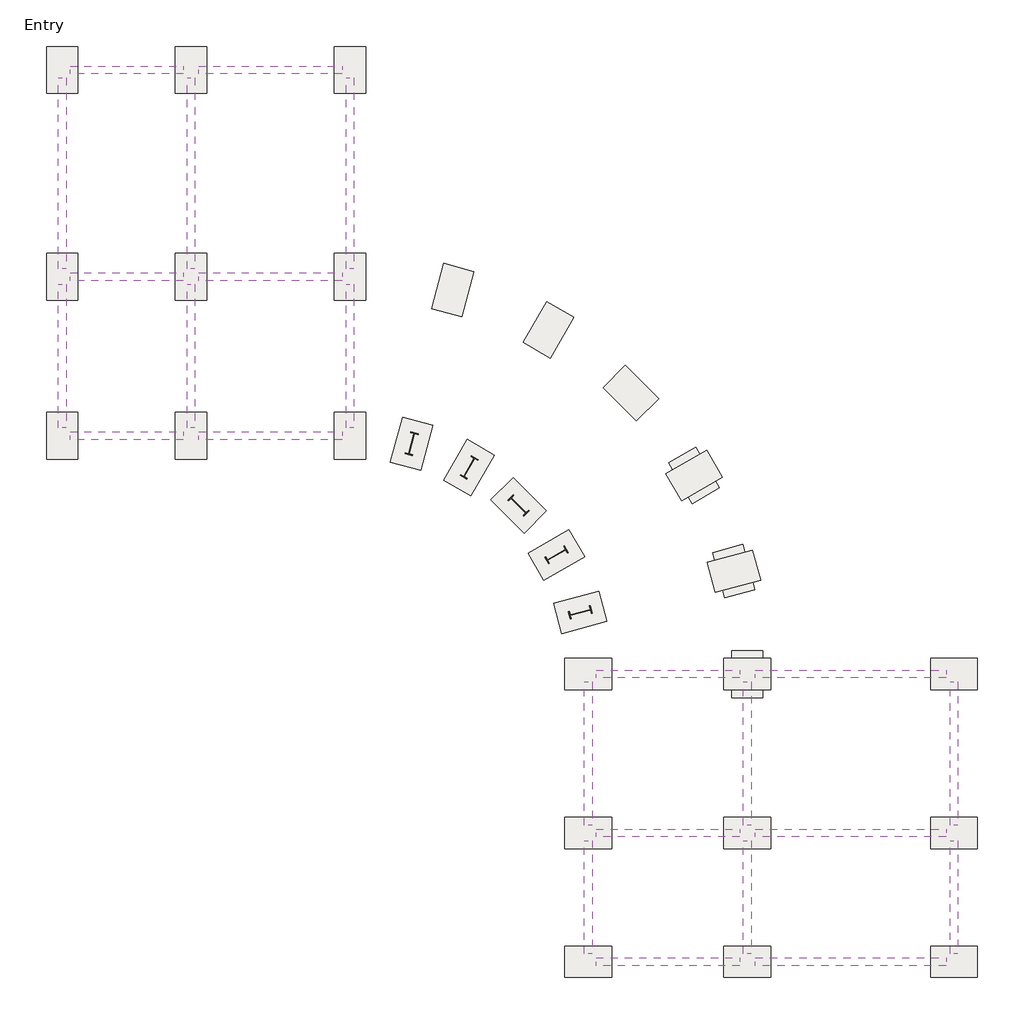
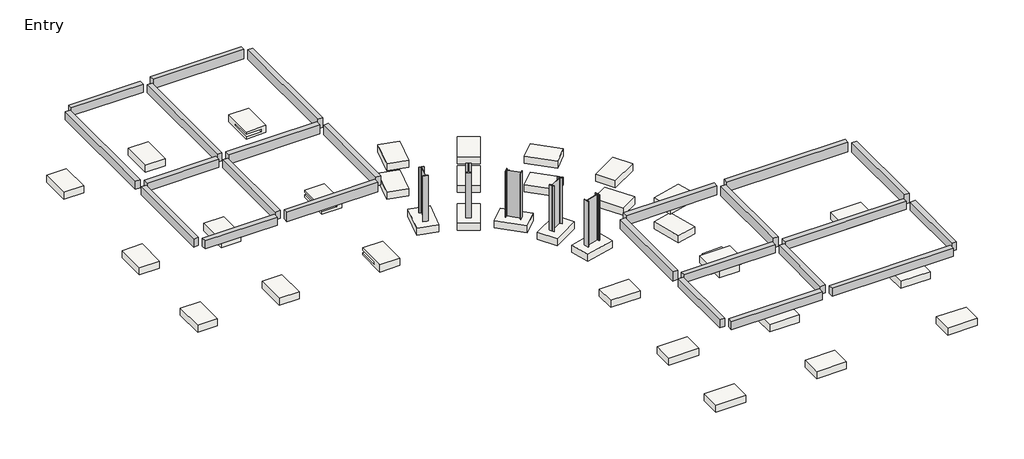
# One storey: 34 slabs, 24 beams, 5 columns.
"""IFC4 building model written with IfcOpenShell, lengths in millimetres."""

import ifcopenshell
import ifcopenshell.guid

model = None  # the IFC model being written
_history = None  # IfcOwnerHistory: only IFC2X3 demands one
_inside = {}  # id of a spatial element -> (the spatial element, [elements in it])
_under = {}  # id of a project, library or spatial element -> (it, [spatial elements below it])
_declared = {}  # id of a project -> (the project, [libraries it declares])
_typed = {}  # id of a type object -> (the type object, [elements of that type])
_made_of = {}  # id of a material, layer set ... -> (it, [elements and type objects made of it])


def new_model(schema):
    """Start an empty IFC model of exactly this schema.

    Asked for "IFC4X3", IfcOpenShell would pick the latest addendum, in which some entities
    have other attributes; the version numbers below select the first issue.
    IFC2X3 requires an IfcOwnerHistory on every rooted entity: one is made here for all.
    """
    global model, _history
    if schema == "IFC4X3":
        model = ifcopenshell.file(schema_version=(4, 3, 0, 0))
    else:
        model = ifcopenshell.file(schema=schema)
    _inside.clear()
    _under.clear()
    _declared.clear()
    _typed.clear()
    _made_of.clear()
    _history = None
    if model.schema == "IFC2X3":
        org = make("IfcOrganization", Name="unknown")
        user = make(
            "IfcPersonAndOrganization",
            ThePerson=make("IfcPerson", FamilyName="unknown"),
            TheOrganization=org,
        )
        app = make(
            "IfcApplication",
            ApplicationDeveloper=org,
            Version="unknown",
            ApplicationFullName="unknown",
            ApplicationIdentifier="unknown",
        )
        _history = make(
            "IfcOwnerHistory",
            OwningUser=user,
            OwningApplication=app,
            ChangeAction="ADDED",
            CreationDate=0,
        )
    return model


def make(cls, **values):
    """One entity of the class cls with the attributes given. An attribute that is None is left unset."""
    return model.create_entity(
        cls, **{name: value for name, value in values.items() if value is not None}
    )


def rooted(cls, **values):
    """An entity with a GlobalId (a new one), such as an element, a storey or a relation."""
    return make(cls, GlobalId=ifcopenshell.guid.new(), OwnerHistory=_history, **values)


def si_unit(unit_type, name, prefix=None):
    """IfcSIUnit, for example si_unit("LENGTHUNIT", "METRE", prefix="MILLI")."""
    return make("IfcSIUnit", UnitType=unit_type, Prefix=prefix, Name=name)


def assignment(units):
    """IfcUnitAssignment: the units of a project."""
    return None if units is None else make("IfcUnitAssignment", Units=units)


def point(xyz):
    """IfcCartesianPoint."""
    return None if xyz is None else make("IfcCartesianPoint", Coordinates=xyz)


def direction(xyz):
    """IfcDirection."""
    return None if xyz is None else make("IfcDirection", DirectionRatios=xyz)


def frame(location, z_axis=None, x_axis=None):
    """IfcAxis2Placement3D, a coordinate frame: its origin and axes. An axis left out is left unset."""
    return make(
        "IfcAxis2Placement3D",
        Location=point(location),
        Axis=direction(z_axis),
        RefDirection=direction(x_axis),
    )


def frame_2d(location, x_axis=None):
    """IfcAxis2Placement2D, a coordinate frame in the plane: its origin and x axis."""
    return make(
        "IfcAxis2Placement2D", Location=point(location), RefDirection=direction(x_axis)
    )


def origin():
    """The frame at (0, 0, 0) with its axes left unset."""
    return frame((0.0, 0.0, 0.0))


def origin_with_axes():
    """The frame at (0, 0, 0) with the z axis (0, 0, 1) and the x axis (1, 0, 0) written out."""
    return frame((0.0, 0.0, 0.0), z_axis=(0.0, 0.0, 1.0), x_axis=(1.0, 0.0, 0.0))


def place(relative_to, where):
    """IfcLocalPlacement: puts the frame where relative to a parent placement (None: the world)."""
    return make(
        "IfcLocalPlacement", PlacementRelTo=relative_to, RelativePlacement=where
    )


def context(
    kind, dimensions, precision=None, world=None, true_north=None, identifier=None
):
    """IfcGeometricRepresentationContext, for example the 3D "Model" context."""
    return make(
        "IfcGeometricRepresentationContext",
        ContextIdentifier=identifier,
        ContextType=kind,
        CoordinateSpaceDimension=dimensions,
        Precision=precision,
        WorldCoordinateSystem=world,
        TrueNorth=true_north,
    )


def project(units=None, contexts=None):
    """IfcProject with its units and contexts."""
    return rooted(
        "IfcProject",
        Name="project",
        RepresentationContexts=contexts,
        UnitsInContext=assignment(units),
    )


def spatial(cls, under=None, at=None, **own):
    """A site, building, storey or space (cls), placed at a placement, below another one or the project."""
    s = rooted(cls, ObjectPlacement=at, **own)
    if under is not None:
        _under.setdefault(under.id(), (under, []))[1].append(s)
    return s


def polyline(points):
    """IfcPolyline through the points."""
    return make("IfcPolyline", Points=[point(p) for p in points])


def circle_curve(where, radius):
    """IfcCircle in the frame where."""
    return make("IfcCircle", Position=where, Radius=radius)


def trimmed(basis, trim1, trim2, sense, master):
    """IfcTrimmedCurve: the piece of a basis curve between two trims."""
    return make(
        "IfcTrimmedCurve",
        BasisCurve=basis,
        Trim1=trim1,
        Trim2=trim2,
        SenseAgreement=sense,
        MasterRepresentation=master,
    )


def segment(curve, same_sense, transition):
    """IfcCompositeCurveSegment."""
    return make(
        "IfcCompositeCurveSegment",
        Transition=transition,
        SameSense=same_sense,
        ParentCurve=curve,
    )


def composite_curve(segments, self_intersect=None):
    """IfcCompositeCurve: segments joined end to end."""
    return make("IfcCompositeCurve", Segments=segments, SelfIntersect=self_intersect)


def outline(outer, holes=None, kind="AREA"):
    """IfcArbitraryClosedProfileDef: a profile drawn as a closed curve; with holes, ...WithVoids."""
    if holes is None:
        return make("IfcArbitraryClosedProfileDef", ProfileType=kind, OuterCurve=outer)
    return make(
        "IfcArbitraryProfileDefWithVoids",
        ProfileType=kind,
        OuterCurve=outer,
        InnerCurves=holes,
    )


def extrude(swept, where, along, depth):
    """IfcExtrudedAreaSolid: the profile swept, set in the frame where, extruded along a direction by depth."""
    return make(
        "IfcExtrudedAreaSolid",
        SweptArea=swept,
        Position=where,
        ExtrudedDirection=direction(along),
        Depth=depth,
    )


def faces_of(points, faces, orient=None, outer=None):
    """IfcFace entities. A face is a list of loops; a loop is a list of indices into points, from 0.

    orient and outer hold one flag for each loop. By default every Orientation is true, the
    first loop of a face is its IfcFaceOuterBound and the others are IfcFaceBound.
    """
    made = []
    for i, loops in enumerate(faces):
        bounds = []
        for j, loop in enumerate(loops):
            is_outer = j == 0 if outer is None else outer[i][j]
            bounds.append(
                make(
                    "IfcFaceOuterBound" if is_outer else "IfcFaceBound",
                    Bound=make("IfcPolyLoop", Polygon=[points[k] for k in loop]),
                    Orientation=True if orient is None else orient[i][j],
                )
            )
        made.append(make("IfcFace", Bounds=bounds))
    return made


def faceted_brep(points, faces, orient=None, outer=None, voids=None):
    """IfcFacetedBrep: a solid bounded by flat faces; with voids (closed shells), ...WithVoids."""
    shared = [point(p) for p in points]
    hull = make("IfcClosedShell", CfsFaces=faces_of(shared, faces, orient, outer))
    if voids is None:
        return make("IfcFacetedBrep", Outer=hull)
    return make(
        "IfcFacetedBrepWithVoids",
        Outer=hull,
        Voids=[
            make(cls, CfsFaces=faces_of(shared, fs, o, b)) for cls, fs, o, b in voids
        ],
    )


def shape(context_of_items, identifier, shape_type, items):
    """IfcShapeRepresentation: the items that make up one representation, for example the "Body"."""
    return make(
        "IfcShapeRepresentation",
        ContextOfItems=context_of_items,
        RepresentationIdentifier=identifier,
        RepresentationType=shape_type,
        Items=items,
    )


def source(mapping_origin, context_of_items, identifier, shape_type, items):
    """IfcRepresentationMap: a shape defined once, which mapped items show again and again."""
    return make(
        "IfcRepresentationMap",
        MappingOrigin=mapping_origin,
        MappedRepresentation=shape(context_of_items, identifier, shape_type, items),
    )


def transform(
    local_origin,
    x_axis=None,
    y_axis=None,
    z_axis=None,
    scale=None,
    scale2=None,
    scale3=None,
    uniform=True,
):
    """IfcCartesianTransformationOperator3D, or its non-uniform kind. x_axis, y_axis, z_axis: its Axis1, 2, 3."""
    if uniform:
        return make(
            "IfcCartesianTransformationOperator3D",
            Axis1=direction(x_axis),
            Axis2=direction(y_axis),
            LocalOrigin=point(local_origin),
            Scale=scale,
            Axis3=direction(z_axis),
        )
    return make(
        "IfcCartesianTransformationOperator3DnonUniform",
        Axis1=direction(x_axis),
        Axis2=direction(y_axis),
        LocalOrigin=point(local_origin),
        Scale=scale,
        Axis3=direction(z_axis),
        Scale2=scale2,
        Scale3=scale3,
    )


def mapped(mapping_source, mapping_target):
    """IfcMappedItem: shows the shape of a source again, moved by a transform."""
    return make(
        "IfcMappedItem", MappingSource=mapping_source, MappingTarget=mapping_target
    )


def made_of(thing, what):
    """Note that an element or type object is made of a material, layer set ...; save() writes the relation."""
    if what is not None:
        _made_of.setdefault(what.id(), (what, []))[1].append(thing)
    return thing


def element(
    cls,
    number,
    at=None,
    inside=None,
    cuts=None,
    type_object=None,
    material=None,
    context=None,
    identifier="Body",
    shape_type=None,
    held_by="IfcProductDefinitionShape",
    body=None,
    shapes=None,
    **own,
):
    """One element of the class cls, such as IfcWall. Its Tag is "e" and its number.

    at: its placement. inside: the storey or other place that contains it. cuts: it is an
    opening in that element (IfcRelVoidsElement). A single representation is given by context,
    identifier, shape_type and body (its items); several are given by shapes. held_by: the class
    of the entity that holds the representations. save() writes the other relations.
    """
    e = rooted(cls, Tag="e%d" % number, ObjectPlacement=at, **own)
    if body is not None:
        shapes = [shape(context, identifier, shape_type, body)]
    if shapes is not None:
        e.Representation = make(held_by, Representations=shapes)
    if inside is not None:
        _inside.setdefault(inside.id(), (inside, []))[1].append(e)
    if cuts is not None:
        rooted(
            "IfcRelVoidsElement", RelatingBuildingElement=cuts, RelatedOpeningElement=e
        )
    if type_object is not None:
        _typed.setdefault(type_object.id(), (type_object, []))[1].append(e)
    return made_of(e, material)


def aggregate(whole, parts):
    """IfcRelAggregates: a whole, such as a stair, and the parts it consists of."""
    return rooted("IfcRelAggregates", RelatingObject=whole, RelatedObjects=parts)


def save(model, path):
    """Write the relations noted so far, then the file.

    IfcRelAggregates (storeys below a building ...), IfcRelContainedInSpatialStructure (elements
    in a storey), IfcRelDefinesByType, IfcRelAssociatesMaterial and IfcRelDeclares: one each for
    every whole, place, type object, material and project.
    """
    for whole, parts in _under.values():
        aggregate(whole, parts)
    for where, things in _inside.values():
        rooted(
            "IfcRelContainedInSpatialStructure",
            RelatedElements=things,
            RelatingStructure=where,
        )
    for kind, things in _typed.values():
        rooted("IfcRelDefinesByType", RelatedObjects=things, RelatingType=kind)
    for what, things in _made_of.values():
        rooted("IfcRelAssociatesMaterial", RelatedObjects=things, RelatingMaterial=what)
    for by, libraries in _declared.values():
        rooted("IfcRelDeclares", RelatingContext=by, RelatedDefinitions=libraries)
    model.write(path)


def w840x251_ab389207(model_context):
    return source(origin(), model_context, "Body", "SweptSolid", [
        extrude(outline(composite_curve([segment(polyline([(146.0, 429.5), (146.0, 398.5), (31.5, 398.5)]), True, "CONTINUOUS"), segment(trimmed(circle_curve(frame_2d((31.5, 375.5)), 23.0), [point((31.5, 398.5))], [point((8.5, 375.5))], True, "CARTESIAN"), True, "CONTINUOUS"), segment(polyline([(8.5, 375.5), (8.5, -375.5)]), True, "CONTINUOUS"), segment(trimmed(circle_curve(frame_2d((31.5, -375.5)), 23.0), [point((8.5, -375.5))], [point((31.5, -398.5))], True, "CARTESIAN"), True, "CONTINUOUS"), segment(polyline([(31.5, -398.5), (146.0, -398.5), (146.0, -429.5), (-146.0, -429.5), (-146.0, -398.5), (-31.5, -398.5)]), True, "CONTINUOUS"), segment(trimmed(circle_curve(frame_2d((-31.5, -375.5)), 23.0), [point((-31.5, -398.5))], [point((-8.5, -375.5))], True, "CARTESIAN"), True, "CONTINUOUS"), segment(polyline([(-8.5, -375.5), (-8.5, 375.5)]), True, "CONTINUOUS"), segment(trimmed(circle_curve(frame_2d((-31.5, 375.5)), 23.0), [point((-8.5, 375.5))], [point((-31.5, 398.5))], True, "CARTESIAN"), True, "CONTINUOUS"), segment(polyline([(-31.5, 398.5), (-146.0, 398.5), (-146.0, 429.5), (146.0, 429.5)]), True, "CONTINUOUS")], self_intersect=False)), origin_with_axes(), (0.0, 0.0, 1.0), 2921.0),
    ])


def m_footing_rectangular_1800_x_1200_x_450mm_16ba7ea5(model_context):
    return source(origin(), model_context, "Body", "SweptSolid", [
        extrude(outline(polyline([(600.0, 900.0), (600.0, -900.0), (-600.0, -900.0), (-600.0, 900.0), (600.0, 900.0)])), frame((0.0, 0.0, -450.0), z_axis=(0.0, 0.0, 1.0), x_axis=(1.0, 0.0, 0.0)), (0.0, 0.0, 1.0), 450.0),
    ])


def m_footing_rectangular_1800_x_1200_x_450mm_a17f5610(model_context):
    return source(origin(), model_context, "Body", "SweptSolid", [
        extrude(outline(polyline([(600.0, -900.0), (-600.0, -900.0), (-600.0, 900.0), (600.0, 900.0), (600.0, -900.0)])), frame((0.0, 0.0, -450.0), z_axis=(0.0, 0.0, 1.0), x_axis=(1.0, 0.0, 0.0)), (0.0, 0.0, 1.0), 450.0),
    ])


model = new_model("IFC4")

# Units and contexts
model_context = context("Model", 3, world=origin())
ifc_project = project(units=[si_unit("LENGTHUNIT", "METRE", prefix="MILLI")], contexts=[model_context])

# Site, building, storey
site = spatial("IfcSite", under=ifc_project)
building = spatial("IfcBuilding", under=site)
storey = spatial("IfcBuildingStorey", under=building, Name="Entry", Elevation=0.0)

# Beams
placement = place(None, origin())
element("IfcBeam", 1, ObjectType="M_Concrete-Rectangular Beam : 300 x 600mm", at=placement, inside=storey, context=model_context, shape_type="SweptSolid", body=[
    extrude(outline(polyline([(-16304.9035319, 4112.1636035), (-16304.9035319, 4412.1636035), (-10808.9035319, 4412.1636035), (-10808.9035319, 4112.1636035), (-16304.9035319, 4112.1636035)])), frame((0.0, 0.0, 2448.0), z_axis=(0.0, 0.0, 1.0), x_axis=(1.0, 0.0, 0.0)), (0.0, 0.0, 1.0), 600.0),
])
element("IfcBeam", 2, ObjectType="M_Concrete-Rectangular Beam : 300 x 600mm", at=placement, inside=storey, context=model_context, shape_type="SweptSolid", body=[
    extrude(outline(polyline([(-21244.300634, 4112.1636035), (-21244.300634, 4412.1636035), (-16904.9035319, 4412.1636035), (-16904.9035319, 4112.1636035), (-21244.300634, 4112.1636035)])), frame((0.0, 0.0, 2448.0), z_axis=(0.0, 0.0, 1.0), x_axis=(1.0, 0.0, 0.0)), (0.0, 0.0, 1.0), 510.0),
])
element("IfcBeam", 3, ObjectType="M_Concrete-Rectangular Beam : 300 x 600mm", at=placement, inside=storey, context=model_context, shape_type="SweptSolid", body=[
    extrude(outline(polyline([(-16304.9035319, -3812.8363965), (-16304.9035319, -3512.8363965), (-10808.9035319, -3512.8363965), (-10808.9035319, -3812.8363965), (-16304.9035319, -3812.8363965)])), frame((0.0, 0.0, 2448.0), z_axis=(0.0, 0.0, 1.0), x_axis=(1.0, 0.0, 0.0)), (0.0, 0.0, 1.0), 600.0),
])
element("IfcBeam", 4, ObjectType="M_Concrete-Rectangular Beam : 300 x 600mm", at=placement, inside=storey, context=model_context, shape_type="SweptSolid", body=[
    extrude(outline(polyline([(-21244.300634, -3812.8363965), (-21244.300634, -3512.8363965), (-16904.9035319, -3512.8363965), (-16904.9035319, -3812.8363965), (-21244.300634, -3812.8363965)])), frame((0.0, 0.0, 2448.0), z_axis=(0.0, 0.0, 1.0), x_axis=(1.0, 0.0, 0.0)), (0.0, 0.0, 1.0), 510.0),
])
element("IfcBeam", 5, ObjectType="M_Concrete-Rectangular Beam : 300 x 600mm", at=placement, inside=storey, context=model_context, shape_type="SweptSolid", body=[
    extrude(outline(polyline([(-16304.9035319, -9908.8363965), (-16304.9035319, -9608.8363965), (-10808.9035319, -9608.8363965), (-10808.9035319, -9908.8363965), (-16304.9035319, -9908.8363965)])), frame((0.0, 0.0, 2448.0), z_axis=(0.0, 0.0, 1.0), x_axis=(1.0, 0.0, 0.0)), (0.0, 0.0, 1.0), 600.0),
])
element("IfcBeam", 6, ObjectType="M_Concrete-Rectangular Beam : 300 x 600mm", at=placement, inside=storey, context=model_context, shape_type="SweptSolid", body=[
    extrude(outline(polyline([(-21244.300634, -9908.8363965), (-21244.300634, -9608.8363965), (-16904.9035319, -9608.8363965), (-16904.9035319, -9908.8363965), (-21244.300634, -9908.8363965)])), frame((0.0, 0.0, 2448.0), z_axis=(0.0, 0.0, 1.0), x_axis=(1.0, 0.0, 0.0)), (0.0, 0.0, 1.0), 510.0),
])
element("IfcBeam", 7, ObjectType="M_Concrete-Rectangular Beam : 300 x 600mm", at=placement, inside=storey, context=model_context, shape_type="SweptSolid", body=[
    extrude(outline(polyline([(-21394.300634, -3362.8363965), (-21694.300634, -3362.8363965), (-21694.300634, 3962.1636035), (-21394.300634, 3962.1636035), (-21394.300634, -3362.8363965)])), frame((0.0, 0.0, 2448.0), z_axis=(0.0, 0.0, 1.0), x_axis=(1.0, 0.0, 0.0)), (0.0, 0.0, 1.0), 510.0),
])
element("IfcBeam", 8, ObjectType="M_Concrete-Rectangular Beam : 300 x 600mm", at=placement, inside=storey, context=model_context, shape_type="SweptSolid", body=[
    extrude(outline(polyline([(-21394.300634, -9458.8363965), (-21694.300634, -9458.8363965), (-21694.300634, -3962.8363965), (-21394.300634, -3962.8363965), (-21394.300634, -9458.8363965)])), frame((0.0, 0.0, 2448.0), z_axis=(0.0, 0.0, 1.0), x_axis=(1.0, 0.0, 0.0)), (0.0, 0.0, 1.0), 510.0),
])
element("IfcBeam", 9, ObjectType="M_Concrete-Rectangular Beam : 300 x 600mm", at=placement, inside=storey, context=model_context, shape_type="SweptSolid", body=[
    extrude(outline(polyline([(-16454.9035319, -9458.8363965), (-16754.9035319, -9458.8363965), (-16754.9035319, -3962.8363965), (-16454.9035319, -3962.8363965), (-16454.9035319, -9458.8363965)])), frame((0.0, 0.0, 2448.0), z_axis=(0.0, 0.0, 1.0), x_axis=(1.0, 0.0, 0.0)), (0.0, 0.0, 1.0), 510.0),
])
element("IfcBeam", 10, ObjectType="M_Concrete-Rectangular Beam : 300 x 600mm", at=placement, inside=storey, context=model_context, shape_type="SweptSolid", body=[
    extrude(outline(polyline([(-16454.9035319, -3362.8363965), (-16754.9035319, -3362.8363965), (-16754.9035319, 3962.1636035), (-16454.9035319, 3962.1636035), (-16454.9035319, -3362.8363965)])), frame((0.0, 0.0, 2448.0), z_axis=(0.0, 0.0, 1.0), x_axis=(1.0, 0.0, 0.0)), (0.0, 0.0, 1.0), 510.0),
])
element("IfcBeam", 11, ObjectType="M_Concrete-Rectangular Beam : 300 x 600mm", at=placement, inside=storey, context=model_context, shape_type="SweptSolid", body=[
    extrude(outline(polyline([(-10358.9035319, -9458.8363965), (-10658.9035319, -9458.8363965), (-10658.9035319, -3962.8363965), (-10358.9035319, -3962.8363965), (-10358.9035319, -9458.8363965)])), frame((0.0, 0.0, 2448.0), z_axis=(0.0, 0.0, 1.0), x_axis=(1.0, 0.0, 0.0)), (0.0, 0.0, 1.0), 600.0),
])
element("IfcBeam", 12, ObjectType="M_Concrete-Rectangular Beam : 300 x 600mm", at=placement, inside=storey, context=model_context, shape_type="SweptSolid", body=[
    extrude(outline(polyline([(-10358.9035319, -3362.8363965), (-10658.9035319, -3362.8363965), (-10658.9035319, 3962.1636035), (-10358.9035319, 3962.1636035), (-10358.9035319, -3362.8363965)])), frame((0.0, 0.0, 2448.0), z_axis=(0.0, 0.0, 1.0), x_axis=(1.0, 0.0, 0.0)), (0.0, 0.0, 1.0), 600.0),
])
element("IfcBeam", 13, ObjectType="M_Concrete-Rectangular Beam : 300 x 600mm", at=placement, inside=storey, context=model_context, shape_type="SweptSolid", body=[
    extrude(outline(polyline([(12806.0964681, -24698.8363965), (12506.0964681, -24698.8363965), (12506.0964681, -19202.8363965), (12806.0964681, -19202.8363965), (12806.0964681, -24698.8363965)])), frame((0.0, 0.0, 2448.0), z_axis=(0.0, 0.0, 1.0), x_axis=(1.0, 0.0, 0.0)), (0.0, 0.0, 1.0), 600.0),
])
element("IfcBeam", 14, ObjectType="M_Concrete-Rectangular Beam : 300 x 600mm", at=placement, inside=storey, context=model_context, shape_type="SweptSolid", body=[
    extrude(outline(polyline([(12806.0964681, -29638.2334986), (12506.0964681, -29638.2334986), (12506.0964681, -25298.8363965), (12806.0964681, -25298.8363965), (12806.0964681, -29638.2334986)])), frame((0.0, 0.0, 2448.0), z_axis=(0.0, 0.0, 1.0), x_axis=(1.0, 0.0, 0.0)), (0.0, 0.0, 1.0), 510.0),
])
element("IfcBeam", 15, ObjectType="M_Concrete-Rectangular Beam : 300 x 600mm", at=placement, inside=storey, context=model_context, shape_type="SweptSolid", body=[
    extrude(outline(polyline([(4881.0964681, -24698.8363965), (4581.0964681, -24698.8363965), (4581.0964681, -19202.8363965), (4881.0964681, -19202.8363965), (4881.0964681, -24698.8363965)])), frame((0.0, 0.0, 2448.0), z_axis=(0.0, 0.0, 1.0), x_axis=(1.0, 0.0, 0.0)), (0.0, 0.0, 1.0), 600.0),
])
element("IfcBeam", 16, ObjectType="M_Concrete-Rectangular Beam : 300 x 600mm", at=placement, inside=storey, context=model_context, shape_type="SweptSolid", body=[
    extrude(outline(polyline([(4881.0964681, -29638.2334986), (4581.0964681, -29638.2334986), (4581.0964681, -25298.8363965), (4881.0964681, -25298.8363965), (4881.0964681, -29638.2334986)])), frame((0.0, 0.0, 2448.0), z_axis=(0.0, 0.0, 1.0), x_axis=(1.0, 0.0, 0.0)), (0.0, 0.0, 1.0), 510.0),
])
element("IfcBeam", 17, ObjectType="M_Concrete-Rectangular Beam : 300 x 600mm", at=placement, inside=storey, context=model_context, shape_type="SweptSolid", body=[
    extrude(outline(polyline([(-1214.9035319, -24698.8363965), (-1514.9035319, -24698.8363965), (-1514.9035319, -19202.8363965), (-1214.9035319, -19202.8363965), (-1214.9035319, -24698.8363965)])), frame((0.0, 0.0, 2448.0), z_axis=(0.0, 0.0, 1.0), x_axis=(1.0, 0.0, 0.0)), (0.0, 0.0, 1.0), 600.0),
])
element("IfcBeam", 18, ObjectType="M_Concrete-Rectangular Beam : 300 x 600mm", at=placement, inside=storey, context=model_context, shape_type="SweptSolid", body=[
    extrude(outline(polyline([(-1214.9035319, -29638.2334986), (-1514.9035319, -29638.2334986), (-1514.9035319, -25298.8363965), (-1214.9035319, -25298.8363965), (-1214.9035319, -29638.2334986)])), frame((0.0, 0.0, 2448.0), z_axis=(0.0, 0.0, 1.0), x_axis=(1.0, 0.0, 0.0)), (0.0, 0.0, 1.0), 510.0),
])
element("IfcBeam", 19, ObjectType="M_Concrete-Rectangular Beam : 300 x 600mm", at=placement, inside=storey, context=model_context, shape_type="SweptSolid", body=[
    extrude(outline(polyline([(5031.0964681, -30088.2334986), (5031.0964681, -29788.2334986), (12356.0964681, -29788.2334986), (12356.0964681, -30088.2334986), (5031.0964681, -30088.2334986)])), frame((0.0, 0.0, 2448.0), z_axis=(0.0, 0.0, 1.0), x_axis=(1.0, 0.0, 0.0)), (0.0, 0.0, 1.0), 510.0),
])
element("IfcBeam", 20, ObjectType="M_Concrete-Rectangular Beam : 300 x 600mm", at=placement, inside=storey, context=model_context, shape_type="SweptSolid", body=[
    extrude(outline(polyline([(-1064.9035319, -30088.2334986), (-1064.9035319, -29788.2334986), (4431.0964681, -29788.2334986), (4431.0964681, -30088.2334986), (-1064.9035319, -30088.2334986)])), frame((0.0, 0.0, 2448.0), z_axis=(0.0, 0.0, 1.0), x_axis=(1.0, 0.0, 0.0)), (0.0, 0.0, 1.0), 510.0),
])
element("IfcBeam", 21, ObjectType="M_Concrete-Rectangular Beam : 300 x 600mm", at=placement, inside=storey, context=model_context, shape_type="SweptSolid", body=[
    extrude(outline(polyline([(-1064.9035319, -25148.8363965), (-1064.9035319, -24848.8363965), (4431.0964681, -24848.8363965), (4431.0964681, -25148.8363965), (-1064.9035319, -25148.8363965)])), frame((0.0, 0.0, 2448.0), z_axis=(0.0, 0.0, 1.0), x_axis=(1.0, 0.0, 0.0)), (0.0, 0.0, 1.0), 510.0),
])
element("IfcBeam", 22, ObjectType="M_Concrete-Rectangular Beam : 300 x 600mm", at=placement, inside=storey, context=model_context, shape_type="SweptSolid", body=[
    extrude(outline(polyline([(5031.0964681, -25148.8363965), (5031.0964681, -24848.8363965), (12356.0964681, -24848.8363965), (12356.0964681, -25148.8363965), (5031.0964681, -25148.8363965)])), frame((0.0, 0.0, 2448.0), z_axis=(0.0, 0.0, 1.0), x_axis=(1.0, 0.0, 0.0)), (0.0, 0.0, 1.0), 510.0),
])
element("IfcBeam", 23, ObjectType="M_Concrete-Rectangular Beam : 300 x 600mm", at=placement, inside=storey, context=model_context, shape_type="SweptSolid", body=[
    extrude(outline(polyline([(-1064.9035319, -19052.8363965), (-1064.9035319, -18752.8363965), (4431.0964681, -18752.8363965), (4431.0964681, -19052.8363965), (-1064.9035319, -19052.8363965)])), frame((0.0, 0.0, 2448.0), z_axis=(0.0, 0.0, 1.0), x_axis=(1.0, 0.0, 0.0)), (0.0, 0.0, 1.0), 600.0),
])
element("IfcBeam", 24, ObjectType="M_Concrete-Rectangular Beam : 300 x 600mm", at=placement, inside=storey, context=model_context, shape_type="SweptSolid", body=[
    extrude(outline(polyline([(5031.0964681, -19052.8363965), (5031.0964681, -18752.8363965), (12356.0964681, -18752.8363965), (12356.0964681, -19052.8363965), (5031.0964681, -19052.8363965)])), frame((0.0, 0.0, 2448.0), z_axis=(0.0, 0.0, 1.0), x_axis=(1.0, 0.0, 0.0)), (0.0, 0.0, 1.0), 600.0),
])

# Columns
w840x251_shape = w840x251_ab389207(model_context)
element("IfcColumn", 25, ObjectType="M_W-Wide Flange-Column : W840X251", at=placement, inside=storey, context=model_context, shape_type="MappedRepresentation", body=[
    mapped(w840x251_shape, transform((-1676.4777763, -16536.1950481, 0.0), x_axis=(-0.25881904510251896, 0.9659258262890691, 0.0), y_axis=(-0.9659258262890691, -0.25881904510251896, 0.0), z_axis=(0.0, 0.0, 1.0))),
])
element("IfcColumn", 26, ObjectType="M_W-Wide Flange-Column : W840X251", at=placement, inside=storey, context=model_context, shape_type="MappedRepresentation", body=[
    mapped(w840x251_shape, transform((-2589.9672396, -14330.8363965, 0.0), x_axis=(-0.4999999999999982, 0.8660254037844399, 0.0), y_axis=(-0.8660254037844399, -0.4999999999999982, 0.0), z_axis=(0.0, 0.0, 1.0))),
])
element("IfcColumn", 27, ObjectType="M_W-Wide Flange-Column : W840X251", at=placement, inside=storey, context=model_context, shape_type="MappedRepresentation", body=[
    mapped(w840x251_shape, transform((-4043.1191247, -12437.0519893, 0.0), x_axis=(0.7071067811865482, 0.7071067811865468, 0.0), y_axis=(-0.7071067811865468, 0.7071067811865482, 0.0), z_axis=(0.0, 0.0, 1.0))),
])
element("IfcColumn", 28, ObjectType="M_W-Wide Flange-Column : W840X251", at=placement, inside=storey, context=model_context, shape_type="MappedRepresentation", body=[
    mapped(w840x251_shape, transform((-5936.9035319, -10983.9001043, 0.0), x_axis=(0.8660254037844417, -0.49999999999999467, 0.0), y_axis=(0.49999999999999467, 0.8660254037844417, 0.0), z_axis=(0.0, 0.0, 1.0))),
])
element("IfcColumn", 29, ObjectType="M_W-Wide Flange-Column : W840X251", at=placement, inside=storey, context=model_context, shape_type="MappedRepresentation", body=[
    mapped(w840x251_shape, transform((-8142.2621834, -10070.4106409, 0.0), x_axis=(0.9659258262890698, -0.25881904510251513, 0.0), y_axis=(0.25881904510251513, 0.9659258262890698, 0.0), z_axis=(0.0, 0.0, 1.0))),
])

# Slabs
element("IfcSlab", 30, ObjectType="M_Footing-Rectangular : 1800 x 1200 x 450mm", at=placement, inside=storey, context=model_context, shape_type="Brep", body=[
    faceted_brep([(-11108.9035319, 3362.1636035, -1677.0), (-9908.9035319, 3362.1636035, -1677.0), (-9908.9035319, 5162.1636035, -1677.0), (-11108.9035319, 5162.1636035, -1677.0), (-11108.9035319, 3362.1636035, -2127.0), (-11108.9035319, 5162.1636035, -2127.0), (-9908.9035319, 5162.1636035, -2127.0), (-9908.9035319, 3362.1636035, -2127.0), (-11108.9035319, 3362.1636035, -1829.0), (-10208.9035319, 3362.1636035, -1829.0), (-10208.9035319, 3362.1636035, -1979.0), (-11108.9035319, 3362.1636035, -1979.0), (-11108.9035319, 4562.1636035, -1979.0), (-11108.9035319, 4562.1636035, -1829.0), (-10208.9035319, 4562.1636035, -1979.0), (-10208.9035319, 4562.1636035, -1829.0)], [[[0, 1, 2, 3]], [[4, 5, 6, 7]], [[1, 0, 8, 9, 10, 11, 4, 7]], [[2, 1, 7, 6]], [[3, 2, 6, 5]], [[0, 3, 5, 4, 11, 12, 13, 8]], [[14, 12, 11, 10]], [[15, 9, 8, 13]], [[15, 14, 10, 9]], [[14, 15, 13, 12]]]),
])
element("IfcSlab", 31, ObjectType="M_Footing-Rectangular : 1800 x 1200 x 450mm", at=placement, inside=storey, context=model_context, shape_type="Brep", body=[
    faceted_brep([(5331.0964681, -18002.8363965, -1829.0), (4131.0964681, -18002.8363965, -1829.0), (4131.0964681, -18302.8363965, -1829.0), (4131.0964681, -19502.8363965, -1829.0), (4131.0964681, -19802.8363965, -1829.0), (5331.0964681, -19802.8363965, -1829.0), (5331.0964681, -19502.8363965, -1829.0), (5331.0964681, -18302.8363965, -1829.0), (5331.0964681, -18002.8363965, -2279.0), (5331.0964681, -19802.8363965, -2279.0), (4131.0964681, -19802.8363965, -2279.0), (4131.0964681, -18002.8363965, -2279.0)], [[[0, 1, 2, 3, 4, 5, 6, 7]], [[8, 9, 10, 11]], [[1, 0, 8, 11]], [[4, 3, 2, 1, 11, 10]], [[5, 4, 10, 9]], [[0, 7, 6, 5, 9, 8]]]),
])
element("IfcSlab", 32, ObjectType="M_Footing-Rectangular : 1800 x 1200 x 450mm", at=placement, inside=storey, context=model_context, shape_type="SweptSolid", body=[
    extrude(outline(polyline([(-1677.0, -9908.9035319), (-1677.0, -11108.9035319), (-1829.0, -11108.9035319), (-1829.0, -10208.9035319), (-1979.0, -10208.9035319), (-1979.0, -11108.9035319), (-2127.0, -11108.9035319), (-2127.0, -9908.9035319), (-1677.0, -9908.9035319)])), frame((0.0, -4562.8363965, 0.0), z_axis=(0.0, 1.0, 0.0), x_axis=(0.0, 0.0, 1.0)), (0.0, 0.0, 1.0), 1800.0),
])
element("IfcSlab", 33, ObjectType="M_Footing-Rectangular : 1800 x 1200 x 450mm", at=placement, inside=storey, context=model_context, shape_type="Brep", body=[
    faceted_brep([(-9908.9035319, -8858.8363965, -1677.0), (-11108.9035319, -8858.8363965, -1677.0), (-11108.9035319, -10658.8363965, -1677.0), (-9908.9035319, -10658.8363965, -1677.0), (-9908.9035319, -8858.8363965, -2127.0), (-9908.9035319, -10658.8363965, -2127.0), (-11108.9035319, -10658.8363965, -2127.0), (-11108.9035319, -8858.8363965, -2127.0), (-11108.9035319, -8858.8363965, -1979.0), (-10208.9035319, -8858.8363965, -1979.0), (-10208.9035319, -8858.8363965, -1829.0), (-11108.9035319, -8858.8363965, -1829.0), (-11108.9035319, -10058.8363965, -1829.0), (-11108.9035319, -10058.8363965, -1979.0), (-10208.9035319, -10058.8363965, -1979.0), (-10208.9035319, -10058.8363965, -1829.0)], [[[0, 1, 2, 3]], [[4, 5, 6, 7]], [[1, 0, 4, 7, 8, 9, 10, 11]], [[2, 1, 11, 12, 13, 8, 7, 6]], [[3, 2, 6, 5]], [[0, 3, 5, 4]], [[13, 14, 9, 8]], [[10, 15, 12, 11]], [[14, 15, 10, 9]], [[15, 14, 13, 12]]]),
])
element("IfcSlab", 34, ObjectType="M_Footing-Rectangular : 1800 x 1200 x 450mm", at=placement, inside=storey, context=model_context, shape_type="SweptSolid", body=[
    extrude(outline(polyline([(11756.0964681, -19502.8363965), (11756.0964681, -18302.8363965), (13556.0964681, -18302.8363965), (13556.0964681, -19502.8363965), (11756.0964681, -19502.8363965)])), frame((0.0, 0.0, -2127.0), z_axis=(0.0, 0.0, 1.0), x_axis=(1.0, 0.0, 0.0)), (0.0, 0.0, 1.0), 450.0),
])
element("IfcSlab", 35, ObjectType="M_Footing-Rectangular : 1800 x 1200 x 450mm", at=placement, inside=storey, context=model_context, shape_type="SweptSolid", body=[
    extrude(outline(polyline([(-1677.0, 5631.0964681), (-1677.0, 3831.0964681), (-2127.0, 3831.0964681), (-2127.0, 4131.0964681), (-1829.0, 4131.0964681), (-1829.0, 5331.0964681), (-2127.0, 5331.0964681), (-2127.0, 5631.0964681), (-1677.0, 5631.0964681)])), frame((0.0, -19502.8363965, 0.0), z_axis=(0.0, 1.0, 0.0), x_axis=(0.0, 0.0, 1.0)), (0.0, 0.0, 1.0), 1200.0),
])
element("IfcSlab", 36, ObjectType="M_Footing-Rectangular : 1800 x 1200 x 450mm", at=placement, inside=storey, context=model_context, shape_type="SweptSolid", body=[
    extrude(outline(polyline([(-464.9035319, -18302.8363965), (-464.9035319, -19502.8363965), (-2264.9035319, -19502.8363965), (-2264.9035319, -18302.8363965), (-464.9035319, -18302.8363965)])), frame((0.0, 0.0, -2127.0), z_axis=(0.0, 0.0, 1.0), x_axis=(1.0, 0.0, 0.0)), (0.0, 0.0, 1.0), 450.0),
])
m_footing_rectangular_1800_x_1200_x_450mm_shape = m_footing_rectangular_1800_x_1200_x_450mm_16ba7ea5(model_context)
element("IfcSlab", 37, ObjectType="M_Footing-Rectangular : 1800 x 1200 x 450mm", at=placement, inside=storey, context=model_context, shape_type="MappedRepresentation", body=[
    mapped(m_footing_rectangular_1800_x_1200_x_450mm_shape, transform((4211.8060608, -14958.4341491, -1829.0), x_axis=(0.9659258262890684, 0.25881904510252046, 0.0), y_axis=(-0.25881904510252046, 0.9659258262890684, 0.0), z_axis=(0.0, 0.0, 1.0))),
])
element("IfcSlab", 38, ObjectType="M_Footing-Rectangular : 1800 x 1200 x 450mm", at=placement, inside=storey, context=model_context, shape_type="MappedRepresentation", body=[
    mapped(m_footing_rectangular_1800_x_1200_x_450mm_shape, transform((2689.3236218, -11282.8363965, -1829.0), x_axis=(0.8660254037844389, 0.4999999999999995, 0.0), y_axis=(-0.4999999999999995, 0.8660254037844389, 0.0), z_axis=(0.0, 0.0, 1.0))),
])
element("IfcSlab", 39, ObjectType="M_Footing-Rectangular : 1800 x 1200 x 450mm", at=placement, inside=storey, context=model_context, shape_type="MappedRepresentation", body=[
    mapped(m_footing_rectangular_1800_x_1200_x_450mm_shape, transform((267.4038134, -8126.5290512, -1829.0), x_axis=(0.7071067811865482, 0.7071067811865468, 0.0), y_axis=(-0.7071067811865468, 0.7071067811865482, 0.0), z_axis=(0.0, 0.0, 1.0))),
])
element("IfcSlab", 40, ObjectType="M_Footing-Rectangular : 1800 x 1200 x 450mm", at=placement, inside=storey, context=model_context, shape_type="MappedRepresentation", body=[
    mapped(m_footing_rectangular_1800_x_1200_x_450mm_shape, transform((-2888.9035319, -5704.6092428, -1829.0), x_axis=(0.8660254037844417, -0.49999999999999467, 0.0), y_axis=(0.49999999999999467, 0.8660254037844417, 0.0), z_axis=(0.0, 0.0, 1.0))),
])
element("IfcSlab", 41, ObjectType="M_Footing-Rectangular : 1800 x 1200 x 450mm", at=placement, inside=storey, context=model_context, shape_type="MappedRepresentation", body=[
    mapped(m_footing_rectangular_1800_x_1200_x_450mm_shape, transform((-6564.5012845, -4182.1268039, -1829.0), x_axis=(0.9659258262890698, -0.25881904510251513, 0.0), y_axis=(0.25881904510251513, 0.9659258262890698, 0.0), z_axis=(0.0, 0.0, 1.0))),
])
element("IfcSlab", 42, ObjectType="M_Footing-Rectangular : 1800 x 1200 x 450mm", at=placement, inside=storey, context=model_context, shape_type="MappedRepresentation", body=[
    mapped(m_footing_rectangular_1800_x_1200_x_450mm_shape, transform((-1676.4777763, -16536.1950481, 0.0), x_axis=(-0.25881904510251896, 0.9659258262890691, 0.0), y_axis=(-0.9659258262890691, -0.25881904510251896, 0.0), z_axis=(0.0, 0.0, 1.0))),
])
element("IfcSlab", 43, ObjectType="M_Footing-Rectangular : 1800 x 1200 x 450mm", at=placement, inside=storey, context=model_context, shape_type="MappedRepresentation", body=[
    mapped(m_footing_rectangular_1800_x_1200_x_450mm_shape, transform((-2589.9672396, -14330.8363965, 0.0), x_axis=(-0.4999999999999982, 0.8660254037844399, 0.0), y_axis=(-0.8660254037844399, -0.4999999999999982, 0.0), z_axis=(0.0, 0.0, 1.0))),
])
element("IfcSlab", 44, ObjectType="M_Footing-Rectangular : 1800 x 1200 x 450mm", at=placement, inside=storey, context=model_context, shape_type="MappedRepresentation", body=[
    mapped(m_footing_rectangular_1800_x_1200_x_450mm_shape, transform((-4043.1191247, -12437.0519893, 0.0), x_axis=(0.7071067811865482, 0.7071067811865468, 0.0), y_axis=(-0.7071067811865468, 0.7071067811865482, 0.0), z_axis=(0.0, 0.0, 1.0))),
])
element("IfcSlab", 45, ObjectType="M_Footing-Rectangular : 1800 x 1200 x 450mm", at=placement, inside=storey, context=model_context, shape_type="MappedRepresentation", body=[
    mapped(m_footing_rectangular_1800_x_1200_x_450mm_shape, transform((-5936.9035319, -10983.9001043, 0.0), x_axis=(0.8660254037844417, -0.49999999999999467, 0.0), y_axis=(0.49999999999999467, 0.8660254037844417, 0.0), z_axis=(0.0, 0.0, 1.0))),
])
element("IfcSlab", 46, ObjectType="M_Footing-Rectangular : 1800 x 1200 x 450mm", at=placement, inside=storey, context=model_context, shape_type="MappedRepresentation", body=[
    mapped(m_footing_rectangular_1800_x_1200_x_450mm_shape, transform((-8142.2621834, -10070.4106409, 0.0), x_axis=(0.9659258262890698, -0.25881904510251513, 0.0), y_axis=(0.25881904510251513, 0.9659258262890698, 0.0), z_axis=(0.0, 0.0, 1.0))),
])
element("IfcSlab", 47, ObjectType="M_Footing-Rectangular : 1800 x 1200 x 450mm", at=placement, inside=storey, context=model_context, shape_type="MappedRepresentation", body=[
    mapped(m_footing_rectangular_1800_x_1200_x_450mm_shape, transform((4211.8060608, -14958.4341491, 0.0), x_axis=(-0.25881904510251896, 0.9659258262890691, 0.0), y_axis=(-0.9659258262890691, -0.25881904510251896, 0.0), z_axis=(0.0, 0.0, 1.0))),
])
element("IfcSlab", 48, ObjectType="M_Footing-Rectangular : 1800 x 1200 x 450mm", at=placement, inside=storey, context=model_context, shape_type="MappedRepresentation", body=[
    mapped(m_footing_rectangular_1800_x_1200_x_450mm_shape, transform((2689.3236218, -11282.8363965, 0.0), x_axis=(-0.4999999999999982, 0.8660254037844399, 0.0), y_axis=(-0.8660254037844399, -0.4999999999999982, 0.0), z_axis=(0.0, 0.0, 1.0))),
])
element("IfcSlab", 49, ObjectType="M_Footing-Rectangular : 1800 x 1200 x 450mm", at=placement, inside=storey, context=model_context, shape_type="MappedRepresentation", body=[
    mapped(m_footing_rectangular_1800_x_1200_x_450mm_shape, transform((267.4038134, -8126.5290512, 0.0), x_axis=(0.7071067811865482, 0.7071067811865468, 0.0), y_axis=(-0.7071067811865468, 0.7071067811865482, 0.0), z_axis=(0.0, 0.0, 1.0))),
])
element("IfcSlab", 50, ObjectType="M_Footing-Rectangular : 1800 x 1200 x 450mm", at=placement, inside=storey, context=model_context, shape_type="MappedRepresentation", body=[
    mapped(m_footing_rectangular_1800_x_1200_x_450mm_shape, transform((-2888.9035319, -5704.6092428, 0.0), x_axis=(0.8660254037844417, -0.49999999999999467, 0.0), y_axis=(0.49999999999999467, 0.8660254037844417, 0.0), z_axis=(0.0, 0.0, 1.0))),
])
element("IfcSlab", 51, ObjectType="M_Footing-Rectangular : 1800 x 1200 x 450mm", at=placement, inside=storey, context=model_context, shape_type="MappedRepresentation", body=[
    mapped(m_footing_rectangular_1800_x_1200_x_450mm_shape, transform((-6564.5012845, -4182.1268039, 0.0), x_axis=(0.9659258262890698, -0.25881904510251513, 0.0), y_axis=(0.25881904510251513, 0.9659258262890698, 0.0), z_axis=(0.0, 0.0, 1.0))),
])
element("IfcSlab", 52, ObjectType="M_Footing-Rectangular : 1800 x 1200 x 450mm", at=placement, inside=storey, context=model_context, shape_type="MappedRepresentation", body=[
    mapped(m_footing_rectangular_1800_x_1200_x_450mm_shape, transform((-16604.9035319, 4262.1636035, -1677.0), x_axis=(-1.0, 0.0, 0.0), y_axis=(0.0, -1.0, 0.0), z_axis=(0.0, 0.0, 1.0))),
])
element("IfcSlab", 53, ObjectType="M_Footing-Rectangular : 1800 x 1200 x 450mm", at=placement, inside=storey, context=model_context, shape_type="MappedRepresentation", body=[
    mapped(m_footing_rectangular_1800_x_1200_x_450mm_shape, transform((-21544.300634, 4262.1636035, -1677.0), x_axis=(-1.0, 0.0, 0.0), y_axis=(0.0, -1.0, 0.0), z_axis=(0.0, 0.0, 1.0))),
])
element("IfcSlab", 54, ObjectType="M_Footing-Rectangular : 1800 x 1200 x 450mm", at=placement, inside=storey, context=model_context, shape_type="MappedRepresentation", body=[
    mapped(m_footing_rectangular_1800_x_1200_x_450mm_shape, transform((-16604.9035319, -3662.8363965, -1677.0), x_axis=(-1.0, 0.0, 0.0), y_axis=(0.0, -1.0, 0.0), z_axis=(0.0, 0.0, 1.0))),
])
element("IfcSlab", 55, ObjectType="M_Footing-Rectangular : 1800 x 1200 x 450mm", at=placement, inside=storey, context=model_context, shape_type="MappedRepresentation", body=[
    mapped(m_footing_rectangular_1800_x_1200_x_450mm_shape, transform((-21544.300634, -3662.8363965, -1677.0), x_axis=(-1.0, 0.0, 0.0), y_axis=(0.0, -1.0, 0.0), z_axis=(0.0, 0.0, 1.0))),
])
element("IfcSlab", 56, ObjectType="M_Footing-Rectangular : 1800 x 1200 x 450mm", at=placement, inside=storey, context=model_context, shape_type="MappedRepresentation", body=[
    mapped(m_footing_rectangular_1800_x_1200_x_450mm_shape, transform((-16604.9035319, -9758.8363965, -1677.0), x_axis=(-1.0, 0.0, 0.0), y_axis=(0.0, -1.0, 0.0), z_axis=(0.0, 0.0, 1.0))),
])
element("IfcSlab", 57, ObjectType="M_Footing-Rectangular : 1800 x 1200 x 450mm", at=placement, inside=storey, context=model_context, shape_type="MappedRepresentation", body=[
    mapped(m_footing_rectangular_1800_x_1200_x_450mm_shape, transform((-21544.300634, -9758.8363965, -1677.0), x_axis=(-1.0, 0.0, 0.0), y_axis=(0.0, -1.0, 0.0), z_axis=(0.0, 0.0, 1.0))),
])
m_footing_rectangular_1800_x_1200_x_450mm_2_shape = m_footing_rectangular_1800_x_1200_x_450mm_a17f5610(model_context)
element("IfcSlab", 58, ObjectType="M_Footing-Rectangular : 1800 x 1200 x 450mm", at=placement, inside=storey, context=model_context, shape_type="MappedRepresentation", body=[
    mapped(m_footing_rectangular_1800_x_1200_x_450mm_2_shape, transform((12656.0964681, -24998.8363965, -1677.0), x_axis=(0.0, -1.0, 0.0), y_axis=(1.0, 0.0, 0.0), z_axis=(0.0, 0.0, 1.0))),
])
element("IfcSlab", 59, ObjectType="M_Footing-Rectangular : 1800 x 1200 x 450mm", at=placement, inside=storey, context=model_context, shape_type="MappedRepresentation", body=[
    mapped(m_footing_rectangular_1800_x_1200_x_450mm_2_shape, transform((12656.0964681, -29938.2334986, -1677.0), x_axis=(0.0, -1.0, 0.0), y_axis=(1.0, 0.0, 0.0), z_axis=(0.0, 0.0, 1.0))),
])
element("IfcSlab", 60, ObjectType="M_Footing-Rectangular : 1800 x 1200 x 450mm", at=placement, inside=storey, context=model_context, shape_type="MappedRepresentation", body=[
    mapped(m_footing_rectangular_1800_x_1200_x_450mm_2_shape, transform((4731.0964681, -24998.8363965, -1677.0), x_axis=(0.0, -1.0, 0.0), y_axis=(1.0, 0.0, 0.0), z_axis=(0.0, 0.0, 1.0))),
])
element("IfcSlab", 61, ObjectType="M_Footing-Rectangular : 1800 x 1200 x 450mm", at=placement, inside=storey, context=model_context, shape_type="MappedRepresentation", body=[
    mapped(m_footing_rectangular_1800_x_1200_x_450mm_2_shape, transform((4731.0964681, -29938.2334986, -1677.0), x_axis=(0.0, -1.0, 0.0), y_axis=(1.0, 0.0, 0.0), z_axis=(0.0, 0.0, 1.0))),
])
element("IfcSlab", 62, ObjectType="M_Footing-Rectangular : 1800 x 1200 x 450mm", at=placement, inside=storey, context=model_context, shape_type="MappedRepresentation", body=[
    mapped(m_footing_rectangular_1800_x_1200_x_450mm_2_shape, transform((-1364.9035319, -24998.8363965, -1677.0), x_axis=(0.0, -1.0, 0.0), y_axis=(1.0, 0.0, 0.0), z_axis=(0.0, 0.0, 1.0))),
])
element("IfcSlab", 63, ObjectType="M_Footing-Rectangular : 1800 x 1200 x 450mm", at=placement, inside=storey, context=model_context, shape_type="MappedRepresentation", body=[
    mapped(m_footing_rectangular_1800_x_1200_x_450mm_2_shape, transform((-1364.9035319, -29938.2334986, -1677.0), x_axis=(0.0, -1.0, 0.0), y_axis=(1.0, 0.0, 0.0), z_axis=(0.0, 0.0, 1.0))),
])

save(model, "model.ifc")
